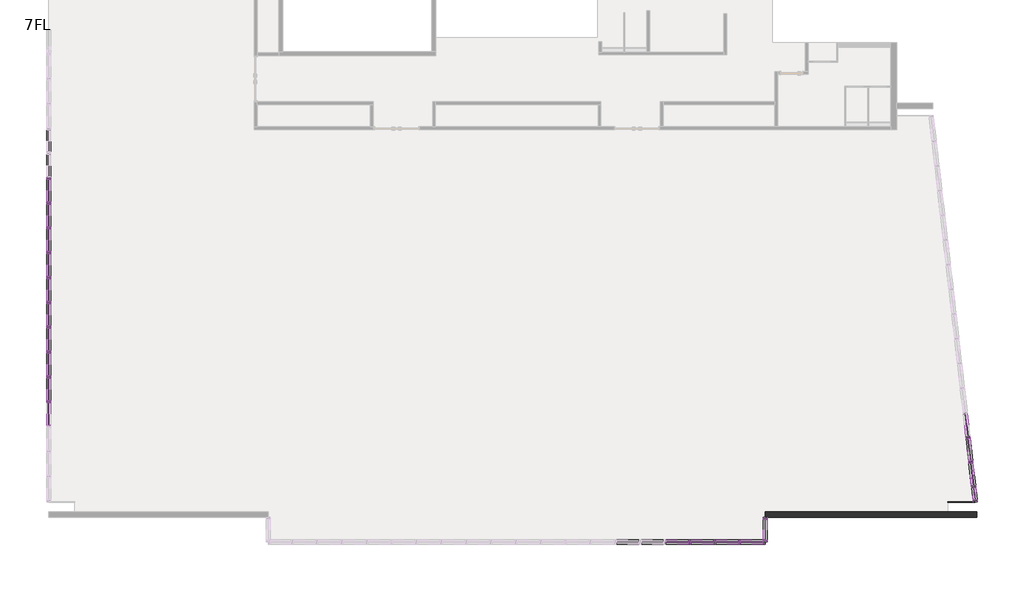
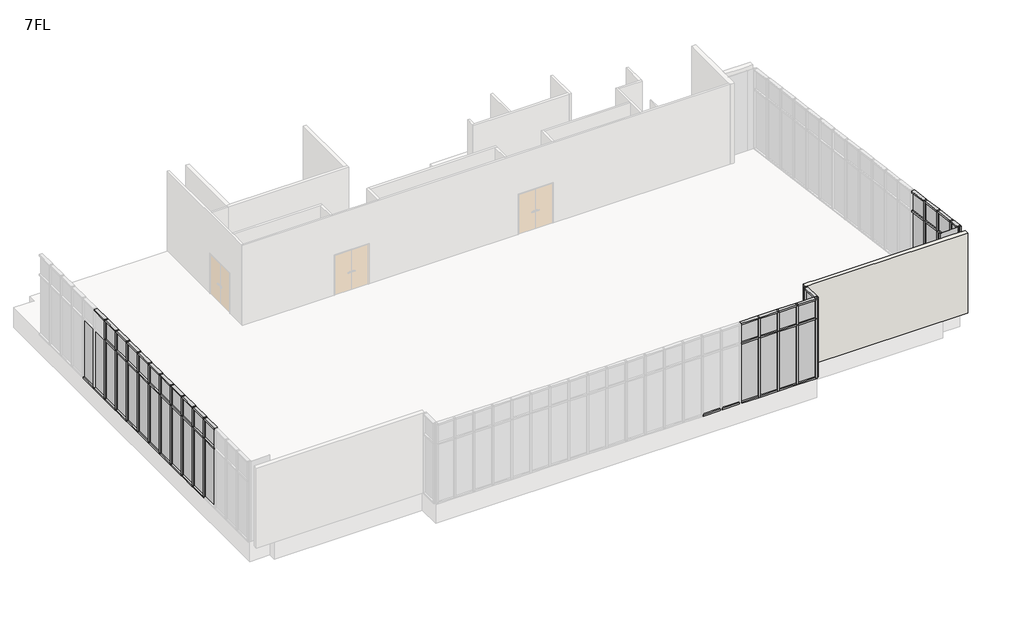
# One storey, part 2 of 4: 100 members, 42 plates, 1 wall.
"""IFC4 building model written with IfcOpenShell, lengths in millimetres."""

from ifc_helpers import new_model, si_unit, origin, place, context, project, spatial, faceted_brep, transform, mapped, element, save
from components import member_70x150_cdd4dcf9, member_70x150_9a135ce4, member_70x150_66cf63de, member_70x150_26475b18, member_70x150_ad4265bc, member_70x150_e0eddb57, member_70x150_1b280ac3, member_70x150_76429c73, member_70x150_98b0aed0, member_70x150_87b27eb4, plate_d1366ea1, plate_5a60b334, plate_28587fd3, plate_4b01b467, plate_396bcf3c, plate_83f08a3e, plate_de90d239, plate_46ceffe4

model = new_model("IFC4")

# Units and contexts
model_context = context("Model", 3, world=origin())
ifc_project = project(units=[si_unit("LENGTHUNIT", "METRE", prefix="MILLI")], contexts=[model_context])

# Site, building, storey
site = spatial("IfcSite", under=ifc_project)
building = spatial("IfcBuilding", under=site)
storey = spatial("IfcBuildingStorey", under=building, Name="7FL", Elevation=24600.0)

# Members
placement = place(None, origin())
member_70x150_shape = member_70x150_cdd4dcf9(model_context)
element("IfcMember", 1, ObjectType="長方形のマリオン : 70x150", at=placement, inside=storey, context=model_context, shape_type="MappedRepresentation", body=[
    mapped(member_70x150_shape, transform((-5230.9784025, -4550.3131013, 24600.0), x_axis=(-1.0, 0.0, 0.0), y_axis=(0.0, 1.0, 0.0), z_axis=(0.0, 0.0, -1.0))),
])
element("IfcMember", 2, ObjectType="長方形のマリオン : 70x150", at=placement, inside=storey, context=model_context, shape_type="MappedRepresentation", body=[
    mapped(member_70x150_shape, transform((-4330.9784025, -4550.3131013, 24600.0), x_axis=(-1.0, 0.0, 0.0), y_axis=(0.0, 1.0, 0.0), z_axis=(0.0, 0.0, -1.0))),
])
element("IfcMember", 3, ObjectType="長方形のマリオン : 70x150", at=placement, inside=storey, context=model_context, shape_type="MappedRepresentation", body=[
    mapped(member_70x150_shape, transform((-6130.9784025, -4550.3131013, 24600.0), x_axis=(-1.0, 0.0, 0.0), y_axis=(0.0, 1.0, 0.0), z_axis=(0.0, 0.0, -1.0))),
])
element("IfcMember", 4, ObjectType="長方形のマリオン : 70x150", at=placement, inside=storey, context=model_context, shape_type="MappedRepresentation", body=[
    mapped(member_70x150_shape, transform((4147.3841348, -2547.7778257, 24600.0), x_axis=(0.11354659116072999, -0.9935326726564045, 0.0), y_axis=(-0.9935326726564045, -0.11354659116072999, 0.0), z_axis=(0.0, 0.0, -1.0))),
])
element("IfcMember", 5, ObjectType="長方形のマリオン : 70x150", at=placement, inside=storey, context=model_context, shape_type="MappedRepresentation", body=[
    mapped(member_70x150_shape, transform((4045.1922027, -1653.5984203, 24600.0), x_axis=(0.11354659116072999, -0.9935326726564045, 0.0), y_axis=(-0.9935326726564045, -0.11354659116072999, 0.0), z_axis=(0.0, 0.0, -1.0))),
])
element("IfcMember", 6, ObjectType="長方形のマリオン : 70x150", at=placement, inside=storey, context=model_context, shape_type="MappedRepresentation", body=[
    mapped(member_70x150_shape, transform((3943.0002707, -759.4190149, 24600.0), x_axis=(0.11354659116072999, -0.9935326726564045, 0.0), y_axis=(-0.9935326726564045, -0.11354659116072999, 0.0), z_axis=(0.0, 0.0, -1.0))),
])
element("IfcMember", 7, ObjectType="長方形のマリオン : 70x150", at=placement, inside=storey, context=model_context, shape_type="MappedRepresentation", body=[
    mapped(member_70x150_shape, transform((-29345.9784025, 8634.6868987, 24600.0), x_axis=(0.0, 1.0, 0.0), y_axis=(1.0, 0.0, 0.0), z_axis=(0.0, 0.0, -1.0))),
])
element("IfcMember", 8, ObjectType="長方形のマリオン : 70x150", at=placement, inside=storey, context=model_context, shape_type="MappedRepresentation", body=[
    mapped(member_70x150_shape, transform((-29345.9784025, 7734.6868987, 24600.0), x_axis=(0.0, 1.0, 0.0), y_axis=(1.0, 0.0, 0.0), z_axis=(0.0, 0.0, -1.0))),
])
element("IfcMember", 9, ObjectType="長方形のマリオン : 70x150", at=placement, inside=storey, context=model_context, shape_type="MappedRepresentation", body=[
    mapped(member_70x150_shape, transform((-29345.9784025, 6834.6868987, 24600.0), x_axis=(0.0, 1.0, 0.0), y_axis=(1.0, 0.0, 0.0), z_axis=(0.0, 0.0, -1.0))),
])
element("IfcMember", 10, ObjectType="長方形のマリオン : 70x150", at=placement, inside=storey, context=model_context, shape_type="MappedRepresentation", body=[
    mapped(member_70x150_shape, transform((-29345.9784025, 5934.6868987, 24600.0), x_axis=(0.0, 1.0, 0.0), y_axis=(1.0, 0.0, 0.0), z_axis=(0.0, 0.0, -1.0))),
])
element("IfcMember", 11, ObjectType="長方形のマリオン : 70x150", at=placement, inside=storey, context=model_context, shape_type="MappedRepresentation", body=[
    mapped(member_70x150_shape, transform((-29345.9784025, 5034.6868987, 24600.0), x_axis=(0.0, 1.0, 0.0), y_axis=(1.0, 0.0, 0.0), z_axis=(0.0, 0.0, -1.0))),
])
element("IfcMember", 12, ObjectType="長方形のマリオン : 70x150", at=placement, inside=storey, context=model_context, shape_type="MappedRepresentation", body=[
    mapped(member_70x150_shape, transform((-29345.9784025, 4134.6868987, 24600.0), x_axis=(0.0, 1.0, 0.0), y_axis=(1.0, 0.0, 0.0), z_axis=(0.0, 0.0, -1.0))),
])
element("IfcMember", 13, ObjectType="長方形のマリオン : 70x150", at=placement, inside=storey, context=model_context, shape_type="MappedRepresentation", body=[
    mapped(member_70x150_shape, transform((-29345.9784025, 3234.6868987, 24600.0), x_axis=(0.0, 1.0, 0.0), y_axis=(1.0, 0.0, 0.0), z_axis=(0.0, 0.0, -1.0))),
])
element("IfcMember", 14, ObjectType="長方形のマリオン : 70x150", at=placement, inside=storey, context=model_context, shape_type="MappedRepresentation", body=[
    mapped(member_70x150_shape, transform((-29345.9784025, 2334.6868987, 24600.0), x_axis=(0.0, 1.0, 0.0), y_axis=(1.0, 0.0, 0.0), z_axis=(0.0, 0.0, -1.0))),
])
element("IfcMember", 15, ObjectType="長方形のマリオン : 70x150", at=placement, inside=storey, context=model_context, shape_type="MappedRepresentation", body=[
    mapped(member_70x150_shape, transform((-29345.9784025, 1434.6868987, 24600.0), x_axis=(0.0, 1.0, 0.0), y_axis=(1.0, 0.0, 0.0), z_axis=(0.0, 0.0, -1.0))),
])
element("IfcMember", 16, ObjectType="長方形のマリオン : 70x150", at=placement, inside=storey, context=model_context, shape_type="MappedRepresentation", body=[
    mapped(member_70x150_shape, transform((-29345.9784025, 534.6868987, 24600.0), x_axis=(0.0, 1.0, 0.0), y_axis=(1.0, 0.0, 0.0), z_axis=(0.0, 0.0, -1.0))),
])
member_70x150_2_shape = member_70x150_9a135ce4(model_context)
element("IfcMember", 17, ObjectType="長方形のマリオン : 70x150", at=placement, inside=storey, context=model_context, shape_type="MappedRepresentation", body=[
    mapped(member_70x150_2_shape, transform((-3395.9784025, -4480.3131013, 28600.0), x_axis=(0.0, 0.0, 1.0), y_axis=(-1.0, 0.0, 0.0), z_axis=(0.0, -1.0, 0.0))),
])
member_70x150_3_shape = member_70x150_66cf63de(model_context)
element("IfcMember", 18, ObjectType="長方形のマリオン : 70x150", at=placement, inside=storey, context=model_context, shape_type="MappedRepresentation", body=[
    mapped(member_70x150_3_shape, transform((-3465.9784025, -4550.3131013, 24600.0), x_axis=(0.0, 0.0, -1.0), y_axis=(0.0, 1.0, 0.0), z_axis=(1.0, 0.0, 0.0))),
])
element("IfcMember", 19, ObjectType="長方形のマリオン : 70x150", at=placement, inside=storey, context=model_context, shape_type="MappedRepresentation", body=[
    mapped(member_70x150_3_shape, transform((-7065.9784025, -4550.3131013, 24600.0), x_axis=(0.0, 0.0, -1.0), y_axis=(0.0, 1.0, 0.0), z_axis=(1.0, 0.0, 0.0))),
])
element("IfcMember", 20, ObjectType="長方形のマリオン : 70x150", at=placement, inside=storey, context=model_context, shape_type="MappedRepresentation", body=[
    mapped(member_70x150_3_shape, transform((-7965.9784025, -4550.3131013, 24600.0), x_axis=(0.0, 0.0, -1.0), y_axis=(0.0, 1.0, 0.0), z_axis=(1.0, 0.0, 0.0))),
])
element("IfcMember", 21, ObjectType="長方形のマリオン : 70x150", at=placement, inside=storey, context=model_context, shape_type="MappedRepresentation", body=[
    mapped(member_70x150_3_shape, transform((-4365.9784025, -4550.3131013, 24600.0), x_axis=(0.0, 0.0, -1.0), y_axis=(0.0, 1.0, 0.0), z_axis=(1.0, 0.0, 0.0))),
])
element("IfcMember", 22, ObjectType="長方形のマリオン : 70x150", at=placement, inside=storey, context=model_context, shape_type="MappedRepresentation", body=[
    mapped(member_70x150_3_shape, transform((-6165.9784025, -4550.3131013, 24600.0), x_axis=(0.0, 0.0, -1.0), y_axis=(0.0, 1.0, 0.0), z_axis=(1.0, 0.0, 0.0))),
])
element("IfcMember", 23, ObjectType="長方形のマリオン : 70x150", at=placement, inside=storey, context=model_context, shape_type="MappedRepresentation", body=[
    mapped(member_70x150_3_shape, transform((-5265.9784025, -4550.3131013, 24600.0), x_axis=(0.0, 0.0, -1.0), y_axis=(0.0, 1.0, 0.0), z_axis=(1.0, 0.0, 0.0))),
])
element("IfcMember", 24, ObjectType="長方形のマリオン : 70x150", at=placement, inside=storey, context=model_context, shape_type="MappedRepresentation", body=[
    mapped(member_70x150_3_shape, transform((4049.1663334, -1688.3720639, 24600.0), x_axis=(0.0, 0.0, -1.0), y_axis=(-0.9935326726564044, -0.11354659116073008, 0.0), z_axis=(-0.11354659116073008, 0.9935326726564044, 0.0))),
])
element("IfcMember", 25, ObjectType="長方形のマリオン : 70x150", at=placement, inside=storey, context=model_context, shape_type="MappedRepresentation", body=[
    mapped(member_70x150_3_shape, transform((3946.9744014, -794.1926585, 24600.0), x_axis=(0.0, 0.0, -1.0), y_axis=(-0.9935326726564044, -0.1135465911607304, 0.0), z_axis=(-0.11354659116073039, 0.9935326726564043, 0.0))),
])
element("IfcMember", 26, ObjectType="長方形のマリオン : 70x150", at=placement, inside=storey, context=model_context, shape_type="MappedRepresentation", body=[
    mapped(member_70x150_3_shape, transform((-29345.9784025, 9569.6868987, 24600.0), x_axis=(0.0, 0.0, -1.0), y_axis=(1.0, 0.0, 0.0), z_axis=(0.0, -1.0, 0.0))),
])
element("IfcMember", 27, ObjectType="長方形のマリオン : 70x150", at=placement, inside=storey, context=model_context, shape_type="MappedRepresentation", body=[
    mapped(member_70x150_3_shape, transform((-29345.9784025, 8669.6868987, 24600.0), x_axis=(0.0, 0.0, -1.0), y_axis=(1.0, 0.0, 0.0), z_axis=(0.0, -1.0, 0.0))),
])
element("IfcMember", 28, ObjectType="長方形のマリオン : 70x150", at=placement, inside=storey, context=model_context, shape_type="MappedRepresentation", body=[
    mapped(member_70x150_3_shape, transform((-29345.9784025, 7769.6868987, 24600.0), x_axis=(0.0, 0.0, -1.0), y_axis=(1.0, 0.0, 0.0), z_axis=(0.0, -1.0, 0.0))),
])
element("IfcMember", 29, ObjectType="長方形のマリオン : 70x150", at=placement, inside=storey, context=model_context, shape_type="MappedRepresentation", body=[
    mapped(member_70x150_3_shape, transform((-29345.9784025, 6869.6868987, 24600.0), x_axis=(0.0, 0.0, -1.0), y_axis=(1.0, 0.0, 0.0), z_axis=(0.0, -1.0, 0.0))),
])
element("IfcMember", 30, ObjectType="長方形のマリオン : 70x150", at=placement, inside=storey, context=model_context, shape_type="MappedRepresentation", body=[
    mapped(member_70x150_3_shape, transform((-29345.9784025, 5969.6868987, 24600.0), x_axis=(0.0, 0.0, -1.0), y_axis=(1.0, 0.0, 0.0), z_axis=(0.0, -1.0, 0.0))),
])
element("IfcMember", 31, ObjectType="長方形のマリオン : 70x150", at=placement, inside=storey, context=model_context, shape_type="MappedRepresentation", body=[
    mapped(member_70x150_3_shape, transform((-29345.9784025, 5069.6868987, 24600.0), x_axis=(0.0, 0.0, -1.0), y_axis=(1.0, 0.0, 0.0), z_axis=(0.0, -1.0, 0.0))),
])
element("IfcMember", 32, ObjectType="長方形のマリオン : 70x150", at=placement, inside=storey, context=model_context, shape_type="MappedRepresentation", body=[
    mapped(member_70x150_3_shape, transform((-29345.9784025, 4169.6868987, 24600.0), x_axis=(0.0, 0.0, -1.0), y_axis=(1.0, 0.0, 0.0), z_axis=(0.0, -1.0, 0.0))),
])
element("IfcMember", 33, ObjectType="長方形のマリオン : 70x150", at=placement, inside=storey, context=model_context, shape_type="MappedRepresentation", body=[
    mapped(member_70x150_3_shape, transform((-29345.9784025, 3269.6868987, 24600.0), x_axis=(0.0, 0.0, -1.0), y_axis=(1.0, 0.0, 0.0), z_axis=(0.0, -1.0, 0.0))),
])
element("IfcMember", 34, ObjectType="長方形のマリオン : 70x150", at=placement, inside=storey, context=model_context, shape_type="MappedRepresentation", body=[
    mapped(member_70x150_3_shape, transform((-29345.9784025, 2369.6868987, 24600.0), x_axis=(0.0, 0.0, -1.0), y_axis=(1.0, 0.0, 0.0), z_axis=(0.0, -1.0, 0.0))),
])
element("IfcMember", 35, ObjectType="長方形のマリオン : 70x150", at=placement, inside=storey, context=model_context, shape_type="MappedRepresentation", body=[
    mapped(member_70x150_3_shape, transform((-29345.9784025, 1469.6868987, 24600.0), x_axis=(0.0, 0.0, -1.0), y_axis=(1.0, 0.0, 0.0), z_axis=(0.0, -1.0, 0.0))),
])
element("IfcMember", 36, ObjectType="長方形のマリオン : 70x150", at=placement, inside=storey, context=model_context, shape_type="MappedRepresentation", body=[
    mapped(member_70x150_3_shape, transform((-29345.9784025, 569.6868987, 24600.0), x_axis=(0.0, 0.0, -1.0), y_axis=(1.0, 0.0, 0.0), z_axis=(0.0, -1.0, 0.0))),
])
element("IfcMember", 37, ObjectType="長方形のマリオン : 70x150", at=placement, inside=storey, context=model_context, shape_type="MappedRepresentation", body=[
    mapped(member_70x150_3_shape, transform((-6995.9784025, -4550.3131013, 28600.0), x_axis=(0.0, 0.0, 1.0), y_axis=(0.0, 1.0, 0.0), z_axis=(-1.0, 0.0, 0.0))),
])
element("IfcMember", 38, ObjectType="長方形のマリオン : 70x150", at=placement, inside=storey, context=model_context, shape_type="MappedRepresentation", body=[
    mapped(member_70x150_3_shape, transform((-6095.9784025, -4550.3131013, 28600.0), x_axis=(0.0, 0.0, 1.0), y_axis=(0.0, 1.0, 0.0), z_axis=(-1.0, 0.0, 0.0))),
])
element("IfcMember", 39, ObjectType="長方形のマリオン : 70x150", at=placement, inside=storey, context=model_context, shape_type="MappedRepresentation", body=[
    mapped(member_70x150_3_shape, transform((-5195.9784025, -4550.3131013, 28600.0), x_axis=(0.0, 0.0, 1.0), y_axis=(0.0, 1.0, 0.0), z_axis=(-1.0, 0.0, 0.0))),
])
element("IfcMember", 40, ObjectType="長方形のマリオン : 70x150", at=placement, inside=storey, context=model_context, shape_type="MappedRepresentation", body=[
    mapped(member_70x150_3_shape, transform((-4295.9784025, -4550.3131013, 28600.0), x_axis=(0.0, 0.0, 1.0), y_axis=(0.0, 1.0, 0.0), z_axis=(-1.0, 0.0, 0.0))),
])
element("IfcMember", 41, ObjectType="長方形のマリオン : 70x150", at=placement, inside=storey, context=model_context, shape_type="MappedRepresentation", body=[
    mapped(member_70x150_3_shape, transform((4143.4100041, -2513.0041822, 28600.0), x_axis=(0.0, 0.0, 1.0), y_axis=(-0.9935326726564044, -0.11354659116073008, 0.0), z_axis=(0.11354659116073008, -0.9935326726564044, 0.0))),
])
element("IfcMember", 42, ObjectType="長方形のマリオン : 70x150", at=placement, inside=storey, context=model_context, shape_type="MappedRepresentation", body=[
    mapped(member_70x150_3_shape, transform((4041.2180721, -1618.8247768, 28600.0), x_axis=(0.0, 0.0, 1.0), y_axis=(-0.9935326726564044, -0.1135465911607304, 0.0), z_axis=(0.11354659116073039, -0.9935326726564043, 0.0))),
])
element("IfcMember", 43, ObjectType="長方形のマリオン : 70x150", at=placement, inside=storey, context=model_context, shape_type="MappedRepresentation", body=[
    mapped(member_70x150_3_shape, transform((3939.02614, -724.6453714, 28600.0), x_axis=(0.0, 0.0, 1.0), y_axis=(-0.9935326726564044, -0.11354659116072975, 0.0), z_axis=(0.11354659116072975, -0.9935326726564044, 0.0))),
])
element("IfcMember", 44, ObjectType="長方形のマリオン : 70x150", at=placement, inside=storey, context=model_context, shape_type="MappedRepresentation", body=[
    mapped(member_70x150_3_shape, transform((-29345.9784025, 9499.6868987, 28600.0), x_axis=(0.0, 0.0, 1.0), y_axis=(1.0, 0.0, 0.0), z_axis=(0.0, 1.0, 0.0))),
])
element("IfcMember", 45, ObjectType="長方形のマリオン : 70x150", at=placement, inside=storey, context=model_context, shape_type="MappedRepresentation", body=[
    mapped(member_70x150_3_shape, transform((-29345.9784025, 8599.6868987, 28600.0), x_axis=(0.0, 0.0, 1.0), y_axis=(1.0, 0.0, 0.0), z_axis=(0.0, 1.0, 0.0))),
])
element("IfcMember", 46, ObjectType="長方形のマリオン : 70x150", at=placement, inside=storey, context=model_context, shape_type="MappedRepresentation", body=[
    mapped(member_70x150_3_shape, transform((-29345.9784025, 7699.6868987, 28600.0), x_axis=(0.0, 0.0, 1.0), y_axis=(1.0, 0.0, 0.0), z_axis=(0.0, 1.0, 0.0))),
])
element("IfcMember", 47, ObjectType="長方形のマリオン : 70x150", at=placement, inside=storey, context=model_context, shape_type="MappedRepresentation", body=[
    mapped(member_70x150_3_shape, transform((-29345.9784025, 6799.6868987, 28600.0), x_axis=(0.0, 0.0, 1.0), y_axis=(1.0, 0.0, 0.0), z_axis=(0.0, 1.0, 0.0))),
])
element("IfcMember", 48, ObjectType="長方形のマリオン : 70x150", at=placement, inside=storey, context=model_context, shape_type="MappedRepresentation", body=[
    mapped(member_70x150_3_shape, transform((-29345.9784025, 5899.6868987, 28600.0), x_axis=(0.0, 0.0, 1.0), y_axis=(1.0, 0.0, 0.0), z_axis=(0.0, 1.0, 0.0))),
])
element("IfcMember", 49, ObjectType="長方形のマリオン : 70x150", at=placement, inside=storey, context=model_context, shape_type="MappedRepresentation", body=[
    mapped(member_70x150_3_shape, transform((-29345.9784025, 4999.6868987, 28600.0), x_axis=(0.0, 0.0, 1.0), y_axis=(1.0, 0.0, 0.0), z_axis=(0.0, 1.0, 0.0))),
])
element("IfcMember", 50, ObjectType="長方形のマリオン : 70x150", at=placement, inside=storey, context=model_context, shape_type="MappedRepresentation", body=[
    mapped(member_70x150_3_shape, transform((-29345.9784025, 4099.6868987, 28600.0), x_axis=(0.0, 0.0, 1.0), y_axis=(1.0, 0.0, 0.0), z_axis=(0.0, 1.0, 0.0))),
])
element("IfcMember", 51, ObjectType="長方形のマリオン : 70x150", at=placement, inside=storey, context=model_context, shape_type="MappedRepresentation", body=[
    mapped(member_70x150_3_shape, transform((-29345.9784025, 3199.6868987, 28600.0), x_axis=(0.0, 0.0, 1.0), y_axis=(1.0, 0.0, 0.0), z_axis=(0.0, 1.0, 0.0))),
])
element("IfcMember", 52, ObjectType="長方形のマリオン : 70x150", at=placement, inside=storey, context=model_context, shape_type="MappedRepresentation", body=[
    mapped(member_70x150_3_shape, transform((-29345.9784025, 2299.6868987, 28600.0), x_axis=(0.0, 0.0, 1.0), y_axis=(1.0, 0.0, 0.0), z_axis=(0.0, 1.0, 0.0))),
])
element("IfcMember", 53, ObjectType="長方形のマリオン : 70x150", at=placement, inside=storey, context=model_context, shape_type="MappedRepresentation", body=[
    mapped(member_70x150_3_shape, transform((-29345.9784025, 1399.6868987, 28600.0), x_axis=(0.0, 0.0, 1.0), y_axis=(1.0, 0.0, 0.0), z_axis=(0.0, 1.0, 0.0))),
])
element("IfcMember", 54, ObjectType="長方形のマリオン : 70x150", at=placement, inside=storey, context=model_context, shape_type="MappedRepresentation", body=[
    mapped(member_70x150_3_shape, transform((-29345.9784025, 499.6868987, 28600.0), x_axis=(0.0, 0.0, 1.0), y_axis=(1.0, 0.0, 0.0), z_axis=(0.0, 1.0, 0.0))),
])
element("IfcMember", 55, ObjectType="長方形のマリオン : 70x150", at=placement, inside=storey, context=model_context, shape_type="MappedRepresentation", body=[
    mapped(member_70x150_2_shape, transform((-3395.9784025, -3720.3131013, 24600.0), x_axis=(0.0, 0.0, -1.0), y_axis=(-1.0, 0.0, 0.0), z_axis=(0.0, 1.0, 0.0))),
])
member_70x150_4_shape = member_70x150_26475b18(model_context)
element("IfcMember", 56, ObjectType="長方形のマリオン : 70x150", at=placement, inside=storey, context=model_context, shape_type="MappedRepresentation", body=[
    mapped(member_70x150_4_shape, transform((-6130.9784025, -4550.3131013, 27600.0), x_axis=(-1.0, 0.0, 0.0), y_axis=(0.0, 1.0, 0.0), z_axis=(0.0, 0.0, -1.0))),
])
element("IfcMember", 57, ObjectType="長方形のマリオン : 70x150", at=placement, inside=storey, context=model_context, shape_type="MappedRepresentation", body=[
    mapped(member_70x150_4_shape, transform((-5230.9784025, -4550.3131013, 27600.0), x_axis=(-1.0, 0.0, 0.0), y_axis=(0.0, 1.0, 0.0), z_axis=(0.0, 0.0, -1.0))),
])
element("IfcMember", 58, ObjectType="長方形のマリオン : 70x150", at=placement, inside=storey, context=model_context, shape_type="MappedRepresentation", body=[
    mapped(member_70x150_4_shape, transform((-4330.9784025, -4550.3131013, 27600.0), x_axis=(-1.0, 0.0, 0.0), y_axis=(0.0, 1.0, 0.0), z_axis=(0.0, 0.0, -1.0))),
])
element("IfcMember", 59, ObjectType="長方形のマリオン : 70x150", at=placement, inside=storey, context=model_context, shape_type="MappedRepresentation", body=[
    mapped(member_70x150_4_shape, transform((3943.0002707, -759.4190149, 27600.0), x_axis=(0.11354659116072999, -0.9935326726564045, 0.0), y_axis=(-0.9935326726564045, -0.11354659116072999, 0.0), z_axis=(0.0, 0.0, -1.0))),
])
element("IfcMember", 60, ObjectType="長方形のマリオン : 70x150", at=placement, inside=storey, context=model_context, shape_type="MappedRepresentation", body=[
    mapped(member_70x150_4_shape, transform((4045.1922027, -1653.5984203, 27600.0), x_axis=(0.11354659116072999, -0.9935326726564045, 0.0), y_axis=(-0.9935326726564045, -0.11354659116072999, 0.0), z_axis=(0.0, 0.0, -1.0))),
])
element("IfcMember", 61, ObjectType="長方形のマリオン : 70x150", at=placement, inside=storey, context=model_context, shape_type="MappedRepresentation", body=[
    mapped(member_70x150_4_shape, transform((4147.3841348, -2547.7778257, 27600.0), x_axis=(0.11354659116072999, -0.9935326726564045, 0.0), y_axis=(-0.9935326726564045, -0.11354659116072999, 0.0), z_axis=(0.0, 0.0, -1.0))),
])
element("IfcMember", 62, ObjectType="長方形のマリオン : 70x150", at=placement, inside=storey, context=model_context, shape_type="MappedRepresentation", body=[
    mapped(member_70x150_4_shape, transform((-29345.9784025, 8634.6868987, 27600.0), x_axis=(0.0, 1.0, 0.0), y_axis=(1.0, 0.0, 0.0), z_axis=(0.0, 0.0, -1.0))),
])
element("IfcMember", 63, ObjectType="長方形のマリオン : 70x150", at=placement, inside=storey, context=model_context, shape_type="MappedRepresentation", body=[
    mapped(member_70x150_4_shape, transform((-29345.9784025, 7734.6868987, 27600.0), x_axis=(0.0, 1.0, 0.0), y_axis=(1.0, 0.0, 0.0), z_axis=(0.0, 0.0, -1.0))),
])
element("IfcMember", 64, ObjectType="長方形のマリオン : 70x150", at=placement, inside=storey, context=model_context, shape_type="MappedRepresentation", body=[
    mapped(member_70x150_4_shape, transform((-29345.9784025, 6834.6868987, 27600.0), x_axis=(0.0, 1.0, 0.0), y_axis=(1.0, 0.0, 0.0), z_axis=(0.0, 0.0, -1.0))),
])
element("IfcMember", 65, ObjectType="長方形のマリオン : 70x150", at=placement, inside=storey, context=model_context, shape_type="MappedRepresentation", body=[
    mapped(member_70x150_4_shape, transform((-29345.9784025, 5934.6868987, 27600.0), x_axis=(0.0, 1.0, 0.0), y_axis=(1.0, 0.0, 0.0), z_axis=(0.0, 0.0, -1.0))),
])
element("IfcMember", 66, ObjectType="長方形のマリオン : 70x150", at=placement, inside=storey, context=model_context, shape_type="MappedRepresentation", body=[
    mapped(member_70x150_4_shape, transform((-29345.9784025, 5034.6868987, 27600.0), x_axis=(0.0, 1.0, 0.0), y_axis=(1.0, 0.0, 0.0), z_axis=(0.0, 0.0, -1.0))),
])
element("IfcMember", 67, ObjectType="長方形のマリオン : 70x150", at=placement, inside=storey, context=model_context, shape_type="MappedRepresentation", body=[
    mapped(member_70x150_4_shape, transform((-29345.9784025, 4134.6868987, 27600.0), x_axis=(0.0, 1.0, 0.0), y_axis=(1.0, 0.0, 0.0), z_axis=(0.0, 0.0, -1.0))),
])
element("IfcMember", 68, ObjectType="長方形のマリオン : 70x150", at=placement, inside=storey, context=model_context, shape_type="MappedRepresentation", body=[
    mapped(member_70x150_4_shape, transform((-29345.9784025, 3234.6868987, 27600.0), x_axis=(0.0, 1.0, 0.0), y_axis=(1.0, 0.0, 0.0), z_axis=(0.0, 0.0, -1.0))),
])
element("IfcMember", 69, ObjectType="長方形のマリオン : 70x150", at=placement, inside=storey, context=model_context, shape_type="MappedRepresentation", body=[
    mapped(member_70x150_4_shape, transform((-29345.9784025, 2334.6868987, 27600.0), x_axis=(0.0, 1.0, 0.0), y_axis=(1.0, 0.0, 0.0), z_axis=(0.0, 0.0, -1.0))),
])
element("IfcMember", 70, ObjectType="長方形のマリオン : 70x150", at=placement, inside=storey, context=model_context, shape_type="MappedRepresentation", body=[
    mapped(member_70x150_4_shape, transform((-29345.9784025, 1434.6868987, 27600.0), x_axis=(0.0, 1.0, 0.0), y_axis=(1.0, 0.0, 0.0), z_axis=(0.0, 0.0, -1.0))),
])
element("IfcMember", 71, ObjectType="長方形のマリオン : 70x150", at=placement, inside=storey, context=model_context, shape_type="MappedRepresentation", body=[
    mapped(member_70x150_4_shape, transform((-29345.9784025, 534.6868987, 27600.0), x_axis=(0.0, 1.0, 0.0), y_axis=(1.0, 0.0, 0.0), z_axis=(0.0, 0.0, -1.0))),
])
member_70x150_5_shape = member_70x150_ad4265bc(model_context)
element("IfcMember", 72, ObjectType="長方形のマリオン : 70x150", at=placement, inside=storey, context=model_context, shape_type="MappedRepresentation", body=[
    mapped(member_70x150_5_shape, transform((-5195.9784025, -4550.3131013, 27600.0), x_axis=(0.0, 0.0, 1.0), y_axis=(0.0, 1.0, 0.0), z_axis=(-1.0, 0.0, 0.0))),
])
element("IfcMember", 73, ObjectType="長方形のマリオン : 70x150", at=placement, inside=storey, context=model_context, shape_type="MappedRepresentation", body=[
    mapped(member_70x150_5_shape, transform((-6995.9784025, -4550.3131013, 27600.0), x_axis=(0.0, 0.0, 1.0), y_axis=(0.0, 1.0, 0.0), z_axis=(-1.0, 0.0, 0.0))),
])
element("IfcMember", 74, ObjectType="長方形のマリオン : 70x150", at=placement, inside=storey, context=model_context, shape_type="MappedRepresentation", body=[
    mapped(member_70x150_5_shape, transform((-6095.9784025, -4550.3131013, 27600.0), x_axis=(0.0, 0.0, 1.0), y_axis=(0.0, 1.0, 0.0), z_axis=(-1.0, 0.0, 0.0))),
])
element("IfcMember", 75, ObjectType="長方形のマリオン : 70x150", at=placement, inside=storey, context=model_context, shape_type="MappedRepresentation", body=[
    mapped(member_70x150_5_shape, transform((-4295.9784025, -4550.3131013, 27600.0), x_axis=(0.0, 0.0, 1.0), y_axis=(0.0, 1.0, 0.0), z_axis=(-1.0, 0.0, 0.0))),
])
element("IfcMember", 76, ObjectType="長方形のマリオン : 70x150", at=placement, inside=storey, context=model_context, shape_type="MappedRepresentation", body=[
    mapped(member_70x150_5_shape, transform((4143.4100041, -2513.0041822, 27600.0), x_axis=(0.0, 0.0, 1.0), y_axis=(-0.9935326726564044, -0.11354659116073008, 0.0), z_axis=(0.11354659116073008, -0.9935326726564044, 0.0))),
])
element("IfcMember", 77, ObjectType="長方形のマリオン : 70x150", at=placement, inside=storey, context=model_context, shape_type="MappedRepresentation", body=[
    mapped(member_70x150_5_shape, transform((4041.2180721, -1618.8247768, 27600.0), x_axis=(0.0, 0.0, 1.0), y_axis=(-0.9935326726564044, -0.1135465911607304, 0.0), z_axis=(0.11354659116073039, -0.9935326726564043, 0.0))),
])
element("IfcMember", 78, ObjectType="長方形のマリオン : 70x150", at=placement, inside=storey, context=model_context, shape_type="MappedRepresentation", body=[
    mapped(member_70x150_5_shape, transform((3939.02614, -724.6453714, 27600.0), x_axis=(0.0, 0.0, 1.0), y_axis=(-0.9935326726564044, -0.11354659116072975, 0.0), z_axis=(0.11354659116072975, -0.9935326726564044, 0.0))),
])
element("IfcMember", 79, ObjectType="長方形のマリオン : 70x150", at=placement, inside=storey, context=model_context, shape_type="MappedRepresentation", body=[
    mapped(member_70x150_5_shape, transform((-29345.9784025, 2299.6868987, 27600.0), x_axis=(0.0, 0.0, 1.0), y_axis=(1.0, 0.0, 0.0), z_axis=(0.0, 1.0, 0.0))),
])
element("IfcMember", 80, ObjectType="長方形のマリオン : 70x150", at=placement, inside=storey, context=model_context, shape_type="MappedRepresentation", body=[
    mapped(member_70x150_5_shape, transform((-29345.9784025, 499.6868987, 27600.0), x_axis=(0.0, 0.0, 1.0), y_axis=(1.0, 0.0, 0.0), z_axis=(0.0, 1.0, 0.0))),
])
element("IfcMember", 81, ObjectType="長方形のマリオン : 70x150", at=placement, inside=storey, context=model_context, shape_type="MappedRepresentation", body=[
    mapped(member_70x150_5_shape, transform((-29345.9784025, 3199.6868987, 27600.0), x_axis=(0.0, 0.0, 1.0), y_axis=(1.0, 0.0, 0.0), z_axis=(0.0, 1.0, 0.0))),
])
element("IfcMember", 82, ObjectType="長方形のマリオン : 70x150", at=placement, inside=storey, context=model_context, shape_type="MappedRepresentation", body=[
    mapped(member_70x150_5_shape, transform((-29345.9784025, 5899.6868987, 27600.0), x_axis=(0.0, 0.0, 1.0), y_axis=(1.0, 0.0, 0.0), z_axis=(0.0, 1.0, 0.0))),
])
element("IfcMember", 83, ObjectType="長方形のマリオン : 70x150", at=placement, inside=storey, context=model_context, shape_type="MappedRepresentation", body=[
    mapped(member_70x150_5_shape, transform((-29345.9784025, 7699.6868987, 27600.0), x_axis=(0.0, 0.0, 1.0), y_axis=(1.0, 0.0, 0.0), z_axis=(0.0, 1.0, 0.0))),
])
element("IfcMember", 84, ObjectType="長方形のマリオン : 70x150", at=placement, inside=storey, context=model_context, shape_type="MappedRepresentation", body=[
    mapped(member_70x150_5_shape, transform((-29345.9784025, 4099.6868987, 27600.0), x_axis=(0.0, 0.0, 1.0), y_axis=(1.0, 0.0, 0.0), z_axis=(0.0, 1.0, 0.0))),
])
element("IfcMember", 85, ObjectType="長方形のマリオン : 70x150", at=placement, inside=storey, context=model_context, shape_type="MappedRepresentation", body=[
    mapped(member_70x150_5_shape, transform((-29345.9784025, 1399.6868987, 27600.0), x_axis=(0.0, 0.0, 1.0), y_axis=(1.0, 0.0, 0.0), z_axis=(0.0, 1.0, 0.0))),
])
element("IfcMember", 86, ObjectType="長方形のマリオン : 70x150", at=placement, inside=storey, context=model_context, shape_type="MappedRepresentation", body=[
    mapped(member_70x150_5_shape, transform((-29345.9784025, 8599.6868987, 27600.0), x_axis=(0.0, 0.0, 1.0), y_axis=(1.0, 0.0, 0.0), z_axis=(0.0, 1.0, 0.0))),
])
element("IfcMember", 87, ObjectType="長方形のマリオン : 70x150", at=placement, inside=storey, context=model_context, shape_type="MappedRepresentation", body=[
    mapped(member_70x150_5_shape, transform((-29345.9784025, 4999.6868987, 27600.0), x_axis=(0.0, 0.0, 1.0), y_axis=(1.0, 0.0, 0.0), z_axis=(0.0, 1.0, 0.0))),
])
element("IfcMember", 88, ObjectType="長方形のマリオン : 70x150", at=placement, inside=storey, context=model_context, shape_type="MappedRepresentation", body=[
    mapped(member_70x150_5_shape, transform((-29345.9784025, 6799.6868987, 27600.0), x_axis=(0.0, 0.0, 1.0), y_axis=(1.0, 0.0, 0.0), z_axis=(0.0, 1.0, 0.0))),
])
member_70x150_6_shape = member_70x150_e0eddb57(model_context)
element("IfcMember", 89, ObjectType="長方形のマリオン : 70x150", at=placement, inside=storey, context=model_context, shape_type="MappedRepresentation", body=[
    mapped(member_70x150_6_shape, transform((-3395.9784025, -4480.3131013, 27600.0), x_axis=(0.0, 0.0, 1.0), y_axis=(-1.0, 0.0, 0.0), z_axis=(0.0, -1.0, 0.0))),
])
member_70x150_7_shape = member_70x150_1b280ac3(model_context)
element("IfcMember", 90, ObjectType="長方形のマリオン : 70x150", at=placement, inside=storey, context=model_context, shape_type="MappedRepresentation", body=[
    mapped(member_70x150_7_shape, transform((4210.5310234, -3100.3131013, 24600.0), x_axis=(0.11354659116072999, -0.9935326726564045, 0.0), y_axis=(-0.9935326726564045, -0.11354659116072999, 0.0), z_axis=(0.0, 0.0, -1.0))),
])
element("IfcMember", 91, ObjectType="長方形のマリオン : 70x150", at=placement, inside=storey, context=model_context, shape_type="MappedRepresentation", body=[
    mapped(member_70x150_7_shape, transform((-3395.9784025, -4550.3131013, 24600.0), x_axis=(0.0, -1.0, 0.0), y_axis=(-1.0, 0.0, 0.0), z_axis=(0.0, 0.0, -1.0))),
])
member_70x150_8_shape = member_70x150_76429c73(model_context)
element("IfcMember", 92, ObjectType="長方形のマリオン : 70x150", at=placement, inside=storey, context=model_context, shape_type="MappedRepresentation", body=[
    mapped(member_70x150_8_shape, transform((-3395.9784025, -4550.3131013, 28600.0), x_axis=(1.0, 0.0, 0.0), y_axis=(0.0, 1.0, 0.0), z_axis=(0.0, 0.0, 1.0))),
])
element("IfcMember", 93, ObjectType="長方形のマリオン : 70x150", at=placement, inside=storey, context=model_context, shape_type="MappedRepresentation", body=[
    mapped(member_70x150_8_shape, transform((-3395.9784025, -3650.3131013, 28600.0), x_axis=(0.0, 1.0, 0.0), y_axis=(-1.0, 0.0, 0.0), z_axis=(0.0, 0.0, 1.0))),
])
element("IfcMember", 94, ObjectType="長方形のマリオン : 70x150", at=placement, inside=storey, context=model_context, shape_type="MappedRepresentation", body=[
    mapped(member_70x150_8_shape, transform((4210.5310234, -3100.3131013, 27600.0), x_axis=(0.11354659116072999, -0.9935326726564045, 0.0), y_axis=(-0.9935326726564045, -0.11354659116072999, 0.0), z_axis=(0.0, 0.0, -1.0))),
])
element("IfcMember", 95, ObjectType="長方形のマリオン : 70x150", at=placement, inside=storey, context=model_context, shape_type="MappedRepresentation", body=[
    mapped(member_70x150_8_shape, transform((-3395.9784025, -4550.3131013, 27600.0), x_axis=(0.0, -1.0, 0.0), y_axis=(-1.0, 0.0, 0.0), z_axis=(0.0, 0.0, -1.0))),
])
element("IfcMember", 96, ObjectType="長方形のマリオン : 70x150", at=placement, inside=storey, context=model_context, shape_type="MappedRepresentation", body=[
    mapped(member_70x150_7_shape, transform((-3395.9784025, -4550.3131013, 27600.0), x_axis=(1.0, 0.0, 0.0), y_axis=(0.0, 1.0, 0.0), z_axis=(0.0, 0.0, 1.0))),
])
element("IfcMember", 97, ObjectType="長方形のマリオン : 70x150", at=placement, inside=storey, context=model_context, shape_type="MappedRepresentation", body=[
    mapped(member_70x150_7_shape, transform((-3395.9784025, -3650.3131013, 27600.0), x_axis=(0.0, 1.0, 0.0), y_axis=(-1.0, 0.0, 0.0), z_axis=(0.0, 0.0, 1.0))),
])
member_70x150_9_shape = member_70x150_98b0aed0(model_context)
element("IfcMember", 98, ObjectType="長方形のマリオン : 70x150", at=placement, inside=storey, context=model_context, shape_type="MappedRepresentation", body=[
    mapped(member_70x150_9_shape, transform((4202.582762, -3030.7658142, 28600.0), x_axis=(0.0, 0.0, 1.0), y_axis=(-0.9935326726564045, -0.11354659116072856, 0.0), z_axis=(0.11354659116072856, -0.9935326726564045, 0.0))),
])
element("IfcMember", 99, ObjectType="長方形のマリオン : 70x150", at=placement, inside=storey, context=model_context, shape_type="MappedRepresentation", body=[
    mapped(member_70x150_9_shape, transform((4151.3582655, -2582.5514692, 24600.0), x_axis=(0.0, 0.0, -1.0), y_axis=(-0.9935326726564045, -0.11354659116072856, 0.0), z_axis=(-0.11354659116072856, 0.9935326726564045, 0.0))),
])
member_70x150_10_shape = member_70x150_87b27eb4(model_context)
element("IfcMember", 100, ObjectType="長方形のマリオン : 70x150", at=placement, inside=storey, context=model_context, shape_type="MappedRepresentation", body=[
    mapped(member_70x150_10_shape, transform((4202.582762, -3030.7658142, 27600.0), x_axis=(0.0, 0.0, 1.0), y_axis=(-0.9935326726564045, -0.11354659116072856, 0.0), z_axis=(0.11354659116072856, -0.9935326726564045, 0.0))),
])

# Plates
plate_shape = plate_d1366ea1(model_context)
element("IfcPlate", 101, ObjectType="システム パネル : 標準", at=placement, inside=storey, context=model_context, shape_type="MappedRepresentation", body=[
    mapped(plate_shape, transform((3760.5310234, -3100.3131013, 24600.0), x_axis=(-1.0, 0.0, 0.0), y_axis=(0.0, -1.0, 0.0), z_axis=(0.0, 0.0, 1.0))),
])
plate_2_shape = plate_5a60b334(model_context)
element("IfcPlate", 102, ObjectType="システム パネル : 標準", at=placement, inside=storey, context=model_context, shape_type="MappedRepresentation", body=[
    mapped(plate_2_shape, transform((3257.2763105, -3100.3131013, 24600.0), x_axis=(-1.0, 0.0, 0.0), y_axis=(0.0, -1.0, 0.0), z_axis=(0.0, 0.0, 1.0))),
])
plate_3_shape = plate_28587fd3(model_context)
element("IfcPlate", 103, ObjectType="システム パネル : 標準", at=placement, inside=storey, context=model_context, shape_type="MappedRepresentation", body=[
    mapped(plate_3_shape, transform((3891.9043047, -312.3293122, 24670.0), x_axis=(0.11354659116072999, -0.9935326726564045, 0.0), y_axis=(0.9935326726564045, 0.11354659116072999, 0.0), z_axis=(0.0, 0.0, 1.0))),
])
element("IfcPlate", 104, ObjectType="システム パネル : 標準", at=placement, inside=storey, context=model_context, shape_type="MappedRepresentation", body=[
    mapped(plate_3_shape, transform((3994.0962367, -1206.5087176, 24670.0), x_axis=(0.11354659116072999, -0.9935326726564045, 0.0), y_axis=(0.9935326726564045, 0.11354659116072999, 0.0), z_axis=(0.0, 0.0, 1.0))),
])
element("IfcPlate", 105, ObjectType="システム パネル : 標準", at=placement, inside=storey, context=model_context, shape_type="MappedRepresentation", body=[
    mapped(plate_3_shape, transform((4096.2881688, -2100.688123, 24670.0), x_axis=(0.11354659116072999, -0.9935326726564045, 0.0), y_axis=(0.9935326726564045, 0.11354659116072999, 0.0), z_axis=(0.0, 0.0, 1.0))),
])
element("IfcPlate", 106, ObjectType="システム パネル : 標準", at=placement, inside=storey, context=model_context, shape_type="MappedRepresentation", body=[
    mapped(plate_3_shape, transform((-29345.9784025, 84.6868987, 24670.0), x_axis=(0.0, 1.0, 0.0), y_axis=(-1.0, 0.0, 0.0), z_axis=(0.0, 0.0, 1.0))),
])
element("IfcPlate", 107, ObjectType="システム パネル : 標準", at=placement, inside=storey, context=model_context, shape_type="MappedRepresentation", body=[
    mapped(plate_3_shape, transform((-29345.9784025, 984.6868987, 24670.0), x_axis=(0.0, 1.0, 0.0), y_axis=(-1.0, 0.0, 0.0), z_axis=(0.0, 0.0, 1.0))),
])
element("IfcPlate", 108, ObjectType="システム パネル : 標準", at=placement, inside=storey, context=model_context, shape_type="MappedRepresentation", body=[
    mapped(plate_3_shape, transform((-29345.9784025, 1884.6868987, 24670.0), x_axis=(0.0, 1.0, 0.0), y_axis=(-1.0, 0.0, 0.0), z_axis=(0.0, 0.0, 1.0))),
])
element("IfcPlate", 109, ObjectType="システム パネル : 標準", at=placement, inside=storey, context=model_context, shape_type="MappedRepresentation", body=[
    mapped(plate_3_shape, transform((-29345.9784025, 2784.6868987, 24670.0), x_axis=(0.0, 1.0, 0.0), y_axis=(-1.0, 0.0, 0.0), z_axis=(0.0, 0.0, 1.0))),
])
element("IfcPlate", 110, ObjectType="システム パネル : 標準", at=placement, inside=storey, context=model_context, shape_type="MappedRepresentation", body=[
    mapped(plate_3_shape, transform((-29345.9784025, 3684.6868987, 24670.0), x_axis=(0.0, 1.0, 0.0), y_axis=(-1.0, 0.0, 0.0), z_axis=(0.0, 0.0, 1.0))),
])
element("IfcPlate", 111, ObjectType="システム パネル : 標準", at=placement, inside=storey, context=model_context, shape_type="MappedRepresentation", body=[
    mapped(plate_3_shape, transform((-29345.9784025, 4584.6868987, 24670.0), x_axis=(0.0, 1.0, 0.0), y_axis=(-1.0, 0.0, 0.0), z_axis=(0.0, 0.0, 1.0))),
])
element("IfcPlate", 112, ObjectType="システム パネル : 標準", at=placement, inside=storey, context=model_context, shape_type="MappedRepresentation", body=[
    mapped(plate_3_shape, transform((-29345.9784025, 5484.6868987, 24670.0), x_axis=(0.0, 1.0, 0.0), y_axis=(-1.0, 0.0, 0.0), z_axis=(0.0, 0.0, 1.0))),
])
element("IfcPlate", 113, ObjectType="システム パネル : 標準", at=placement, inside=storey, context=model_context, shape_type="MappedRepresentation", body=[
    mapped(plate_3_shape, transform((-29345.9784025, 6384.6868987, 24670.0), x_axis=(0.0, 1.0, 0.0), y_axis=(-1.0, 0.0, 0.0), z_axis=(0.0, 0.0, 1.0))),
])
element("IfcPlate", 114, ObjectType="システム パネル : 標準", at=placement, inside=storey, context=model_context, shape_type="MappedRepresentation", body=[
    mapped(plate_3_shape, transform((-29345.9784025, 7284.6868987, 24670.0), x_axis=(0.0, 1.0, 0.0), y_axis=(-1.0, 0.0, 0.0), z_axis=(0.0, 0.0, 1.0))),
])
element("IfcPlate", 115, ObjectType="システム パネル : 標準", at=placement, inside=storey, context=model_context, shape_type="MappedRepresentation", body=[
    mapped(plate_3_shape, transform((-29345.9784025, 8184.6868987, 24670.0), x_axis=(0.0, 1.0, 0.0), y_axis=(-1.0, 0.0, 0.0), z_axis=(0.0, 0.0, 1.0))),
])
element("IfcPlate", 116, ObjectType="システム パネル : 標準", at=placement, inside=storey, context=model_context, shape_type="MappedRepresentation", body=[
    mapped(plate_3_shape, transform((-29345.9784025, 9084.6868987, 24670.0), x_axis=(0.0, 1.0, 0.0), y_axis=(-1.0, 0.0, 0.0), z_axis=(0.0, 0.0, 1.0))),
])
element("IfcPlate", 117, ObjectType="システム パネル : 標準", at=placement, inside=storey, context=model_context, shape_type="MappedRepresentation", body=[
    mapped(plate_3_shape, transform((-29345.9784025, 9984.6868987, 24670.0), x_axis=(0.0, 1.0, 0.0), y_axis=(-1.0, 0.0, 0.0), z_axis=(0.0, 0.0, 1.0))),
])
element("IfcPlate", 118, ObjectType="システム パネル : 標準", at=placement, inside=storey, context=model_context, shape_type="MappedRepresentation", body=[
    mapped(plate_3_shape, transform((-3880.9784025, -4550.3131013, 24670.0), x_axis=(-1.0, 0.0, 0.0), y_axis=(0.0, -1.0, 0.0), z_axis=(0.0, 0.0, 1.0))),
])
element("IfcPlate", 119, ObjectType="システム パネル : 標準", at=placement, inside=storey, context=model_context, shape_type="MappedRepresentation", body=[
    mapped(plate_3_shape, transform((-4780.9784025, -4550.3131013, 24670.0), x_axis=(-1.0, 0.0, 0.0), y_axis=(0.0, -1.0, 0.0), z_axis=(0.0, 0.0, 1.0))),
])
element("IfcPlate", 120, ObjectType="システム パネル : 標準", at=placement, inside=storey, context=model_context, shape_type="MappedRepresentation", body=[
    mapped(plate_3_shape, transform((-5680.9784025, -4550.3131013, 24670.0), x_axis=(-1.0, 0.0, 0.0), y_axis=(0.0, -1.0, 0.0), z_axis=(0.0, 0.0, 1.0))),
])
element("IfcPlate", 121, ObjectType="システム パネル : 標準", at=placement, inside=storey, context=model_context, shape_type="MappedRepresentation", body=[
    mapped(plate_3_shape, transform((-6580.9784025, -4550.3131013, 24670.0), x_axis=(-1.0, 0.0, 0.0), y_axis=(0.0, -1.0, 0.0), z_axis=(0.0, 0.0, 1.0))),
])
plate_4_shape = plate_4b01b467(model_context)
element("IfcPlate", 122, ObjectType="システム パネル : 標準", at=placement, inside=storey, context=model_context, shape_type="MappedRepresentation", body=[
    mapped(plate_4_shape, transform((-3395.9784025, -4100.3131013, 24670.0), x_axis=(0.0, -1.0, 0.0), y_axis=(1.0, 0.0, 0.0), z_axis=(0.0, 0.0, 1.0))),
])
plate_5_shape = plate_396bcf3c(model_context)
element("IfcPlate", 123, ObjectType="システム パネル : 標準", at=placement, inside=storey, context=model_context, shape_type="MappedRepresentation", body=[
    mapped(plate_5_shape, transform((-3880.9784025, -4550.3131013, 27635.0), x_axis=(-1.0, 0.0, 0.0), y_axis=(0.0, -1.0, 0.0), z_axis=(0.0, 0.0, 1.0))),
])
element("IfcPlate", 124, ObjectType="システム パネル : 標準", at=placement, inside=storey, context=model_context, shape_type="MappedRepresentation", body=[
    mapped(plate_5_shape, transform((-4780.9784025, -4550.3131013, 27635.0), x_axis=(-1.0, 0.0, 0.0), y_axis=(0.0, -1.0, 0.0), z_axis=(0.0, 0.0, 1.0))),
])
element("IfcPlate", 125, ObjectType="システム パネル : 標準", at=placement, inside=storey, context=model_context, shape_type="MappedRepresentation", body=[
    mapped(plate_5_shape, transform((-5680.9784025, -4550.3131013, 27635.0), x_axis=(-1.0, 0.0, 0.0), y_axis=(0.0, -1.0, 0.0), z_axis=(0.0, 0.0, 1.0))),
])
element("IfcPlate", 126, ObjectType="システム パネル : 標準", at=placement, inside=storey, context=model_context, shape_type="MappedRepresentation", body=[
    mapped(plate_5_shape, transform((-6580.9784025, -4550.3131013, 27635.0), x_axis=(-1.0, 0.0, 0.0), y_axis=(0.0, -1.0, 0.0), z_axis=(0.0, 0.0, 1.0))),
])
element("IfcPlate", 127, ObjectType="システム パネル : 標準", at=placement, inside=storey, context=model_context, shape_type="MappedRepresentation", body=[
    mapped(plate_5_shape, transform((3891.9043047, -312.3293122, 27635.0), x_axis=(0.11354659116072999, -0.9935326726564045, 0.0), y_axis=(0.9935326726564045, 0.11354659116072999, 0.0), z_axis=(0.0, 0.0, 1.0))),
])
element("IfcPlate", 128, ObjectType="システム パネル : 標準", at=placement, inside=storey, context=model_context, shape_type="MappedRepresentation", body=[
    mapped(plate_5_shape, transform((3994.0962367, -1206.5087176, 27635.0), x_axis=(0.11354659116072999, -0.9935326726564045, 0.0), y_axis=(0.9935326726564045, 0.11354659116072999, 0.0), z_axis=(0.0, 0.0, 1.0))),
])
element("IfcPlate", 129, ObjectType="システム パネル : 標準", at=placement, inside=storey, context=model_context, shape_type="MappedRepresentation", body=[
    mapped(plate_5_shape, transform((4096.2881688, -2100.688123, 27635.0), x_axis=(0.11354659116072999, -0.9935326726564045, 0.0), y_axis=(0.9935326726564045, 0.11354659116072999, 0.0), z_axis=(0.0, 0.0, 1.0))),
])
element("IfcPlate", 130, ObjectType="システム パネル : 標準", at=placement, inside=storey, context=model_context, shape_type="MappedRepresentation", body=[
    mapped(plate_5_shape, transform((-29345.9784025, 84.6868987, 27635.0), x_axis=(0.0, 1.0, 0.0), y_axis=(-1.0, 0.0, 0.0), z_axis=(0.0, 0.0, 1.0))),
])
element("IfcPlate", 131, ObjectType="システム パネル : 標準", at=placement, inside=storey, context=model_context, shape_type="MappedRepresentation", body=[
    mapped(plate_5_shape, transform((-29345.9784025, 984.6868987, 27635.0), x_axis=(0.0, 1.0, 0.0), y_axis=(-1.0, 0.0, 0.0), z_axis=(0.0, 0.0, 1.0))),
])
element("IfcPlate", 132, ObjectType="システム パネル : 標準", at=placement, inside=storey, context=model_context, shape_type="MappedRepresentation", body=[
    mapped(plate_5_shape, transform((-29345.9784025, 1884.6868987, 27635.0), x_axis=(0.0, 1.0, 0.0), y_axis=(-1.0, 0.0, 0.0), z_axis=(0.0, 0.0, 1.0))),
])
element("IfcPlate", 133, ObjectType="システム パネル : 標準", at=placement, inside=storey, context=model_context, shape_type="MappedRepresentation", body=[
    mapped(plate_5_shape, transform((-29345.9784025, 2784.6868987, 27635.0), x_axis=(0.0, 1.0, 0.0), y_axis=(-1.0, 0.0, 0.0), z_axis=(0.0, 0.0, 1.0))),
])
element("IfcPlate", 134, ObjectType="システム パネル : 標準", at=placement, inside=storey, context=model_context, shape_type="MappedRepresentation", body=[
    mapped(plate_5_shape, transform((-29345.9784025, 3684.6868987, 27635.0), x_axis=(0.0, 1.0, 0.0), y_axis=(-1.0, 0.0, 0.0), z_axis=(0.0, 0.0, 1.0))),
])
element("IfcPlate", 135, ObjectType="システム パネル : 標準", at=placement, inside=storey, context=model_context, shape_type="MappedRepresentation", body=[
    mapped(plate_5_shape, transform((-29345.9784025, 4584.6868987, 27635.0), x_axis=(0.0, 1.0, 0.0), y_axis=(-1.0, 0.0, 0.0), z_axis=(0.0, 0.0, 1.0))),
])
element("IfcPlate", 136, ObjectType="システム パネル : 標準", at=placement, inside=storey, context=model_context, shape_type="MappedRepresentation", body=[
    mapped(plate_5_shape, transform((-29345.9784025, 5484.6868987, 27635.0), x_axis=(0.0, 1.0, 0.0), y_axis=(-1.0, 0.0, 0.0), z_axis=(0.0, 0.0, 1.0))),
])
element("IfcPlate", 137, ObjectType="システム パネル : 標準", at=placement, inside=storey, context=model_context, shape_type="MappedRepresentation", body=[
    mapped(plate_5_shape, transform((-29345.9784025, 6384.6868987, 27635.0), x_axis=(0.0, 1.0, 0.0), y_axis=(-1.0, 0.0, 0.0), z_axis=(0.0, 0.0, 1.0))),
])
element("IfcPlate", 138, ObjectType="システム パネル : 標準", at=placement, inside=storey, context=model_context, shape_type="MappedRepresentation", body=[
    mapped(plate_5_shape, transform((-29345.9784025, 7284.6868987, 27635.0), x_axis=(0.0, 1.0, 0.0), y_axis=(-1.0, 0.0, 0.0), z_axis=(0.0, 0.0, 1.0))),
])
element("IfcPlate", 139, ObjectType="システム パネル : 標準", at=placement, inside=storey, context=model_context, shape_type="MappedRepresentation", body=[
    mapped(plate_5_shape, transform((-29345.9784025, 8184.6868987, 27635.0), x_axis=(0.0, 1.0, 0.0), y_axis=(-1.0, 0.0, 0.0), z_axis=(0.0, 0.0, 1.0))),
])
plate_6_shape = plate_83f08a3e(model_context)
element("IfcPlate", 140, ObjectType="システム パネル : 標準", at=placement, inside=storey, context=model_context, shape_type="MappedRepresentation", body=[
    mapped(plate_6_shape, transform((-3395.9784025, -4100.3131013, 27635.0), x_axis=(0.0, -1.0, 0.0), y_axis=(1.0, 0.0, 0.0), z_axis=(0.0, 0.0, 1.0))),
])
plate_7_shape = plate_de90d239(model_context)
element("IfcPlate", 141, ObjectType="システム パネル : 標準", at=placement, inside=storey, context=model_context, shape_type="MappedRepresentation", body=[
    mapped(plate_7_shape, transform((4176.9705138, -2806.6586417, 24670.0), x_axis=(0.11354659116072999, -0.9935326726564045, 0.0), y_axis=(0.9935326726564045, 0.11354659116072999, 0.0), z_axis=(0.0, 0.0, 1.0))),
])
plate_8_shape = plate_46ceffe4(model_context)
element("IfcPlate", 142, ObjectType="システム パネル : 標準", at=placement, inside=storey, context=model_context, shape_type="MappedRepresentation", body=[
    mapped(plate_8_shape, transform((4176.9705138, -2806.6586417, 27635.0), x_axis=(0.11354659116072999, -0.9935326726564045, 0.0), y_axis=(0.9935326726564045, 0.11354659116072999, 0.0), z_axis=(0.0, 0.0, 1.0))),
])

# Wall
element("IfcWall", 143, ObjectType="標準200", at=placement, inside=storey, context=model_context, shape_type="Brep", body=[
    faceted_brep([(4261.9595949, -3450.3131013, 24600.0), (-3395.9784025, -3450.3131013, 24600.0), (-3395.9784025, -3450.3131013, 28600.0), (-3045.9784025, -3450.3131013, 28600.0), (-2945.9784025, -3450.3131013, 28600.0), (-2845.9784025, -3450.3131013, 28600.0), (2754.0215975, -3450.3131013, 28600.0), (3654.0215975, -3450.3131013, 28600.0), (4261.9595949, -3450.3131013, 28600.0), (4261.9595949, -3650.3131013, 24600.0), (4261.9595949, -3650.3131013, 28600.0), (-2845.9784025, -3650.3131013, 28600.0), (-3395.9784025, -3650.3131013, 28600.0), (-3395.9784025, -3650.3131013, 24600.0), (-3395.9784025, -3550.3131013, 28600.0)], [[[0, 1, 2, 3, 4, 5, 6, 7, 8]], [[9, 10, 11, 12, 13]], [[1, 0, 9, 13]], [[2, 1, 13, 12, 14]], [[8, 7, 6, 5, 4, 3, 2, 14, 12, 11, 10]], [[0, 8, 10, 9]]]),
])

save(model, "model.ifc")
